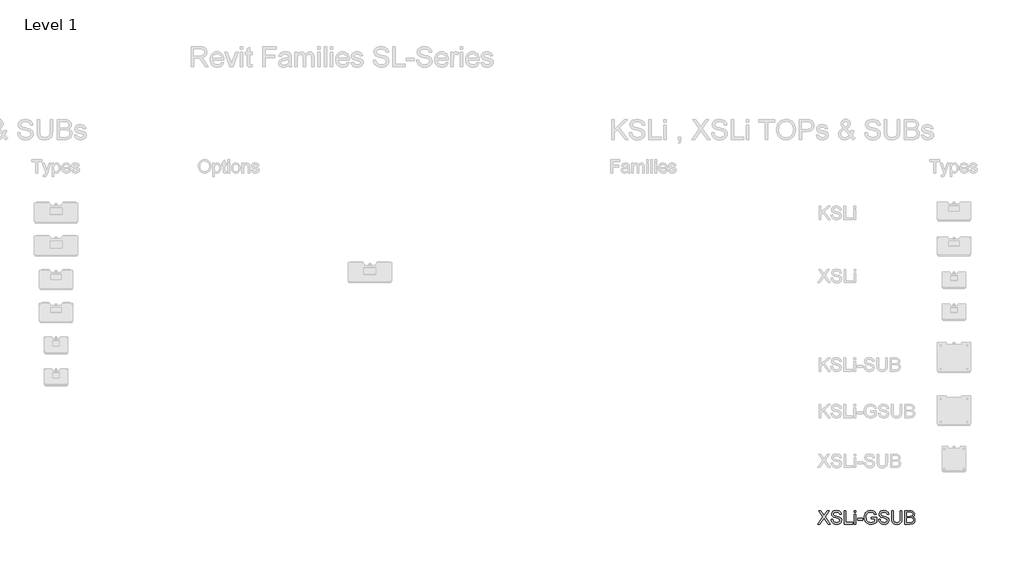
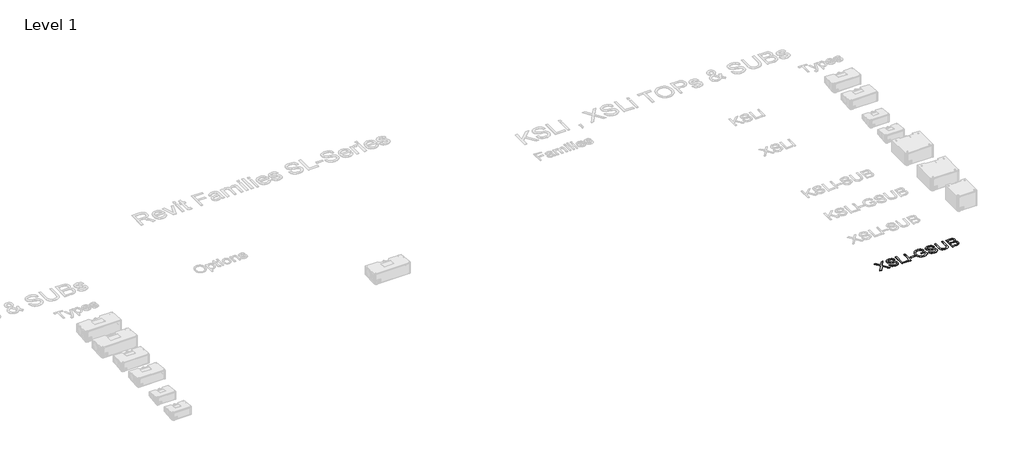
# One storey, part 49 of 52: 2 proxies.
"""IFC4 building model written with IfcOpenShell, lengths in millimetres."""

from ifc_helpers import new_model, si_unit, origin, origin_with_axes, place, context, project, spatial, polyline, outline, extrude, element, save

model = new_model("IFC4")

# Units and contexts
model_context = context("Model", 3, world=origin())
ifc_project = project(units=[si_unit("LENGTHUNIT", "METRE", prefix="MILLI")], contexts=[model_context])

# Site, building, storey
site = spatial("IfcSite", under=ifc_project)
building = spatial("IfcBuilding", under=site)
storey = spatial("IfcBuildingStorey", under=building, Name="Level 1", Elevation=0.0)

# Proxies
placement = place(None, origin())
element("IfcBuildingElementProxy", 1, Name="400mm Arial", ObjectType="400mm Arial", at=placement, inside=storey, context=model_context, shape_type="SweptSolid", body=[
    extrude(outline(polyline([(12164.5195082, 6781.029306), (12319.4223537, 6999.9926695), (12189.6335858, 7182.8545466), (12249.8681311, 7182.8545466), (12322.9540208, 7079.9456898), (12347.577589, 7039.8220268), (12376.4195374, 7080.6324028), (12448.7206122, 7182.8545466), (12509.8380744, 7182.8545466), (12380.0493065, 6999.4040583), (12534.9521519, 6781.029306), (12474.7176066, 6781.029306), (12371.5144442, 6926.6124742), (12350.0301357, 6956.8278487), (12326.3875861, 6923.6694182), (12225.6369704, 6781.029306), (12164.5195082, 6781.029306)])), origin_with_axes(), (0.0, 0.0, 1.0), 5.0),
    extrude(outline(polyline([(12566.3447488, 6919.1567324), (12616.5729039, 6919.1567324), (12622.3363885, 6891.2835399), (12632.7597117, 6868.8795264), (12649.0200959, 6851.0985633), (12672.2947634, 6837.094522), (12700.7443044, 6828.0078368), (12732.5293088, 6824.9789417), (12760.5128659, 6827.2720728), (12785.0138068, 6834.1514661), (12804.8671718, 6845.0407731), (12818.9080012, 6859.3636455), (12827.2589225, 6875.8079707), (12830.042563, 6893.0616362), (12827.9578983, 6909.8738434), (12821.7039044, 6924.4051822), (12808.9997128, 6936.8028055), (12787.5644553, 6947.2138659), (12714.4295146, 6966.3927806), (12666.4209142, 6979.0847094), (12635.7027676, 6991.1635016), (12610.6990547, 7008.0615479), (12592.9794053, 7028.5403123), (12582.421192, 7052.1583364), (12578.9017876, 7078.4741618), (12583.2550579, 7107.8924587), (12596.3148687, 7135.3241928), (12617.7378635, 7158.5743349), (12647.1806859, 7175.4478557), (12682.5218829, 7185.7117634), (12721.6400017, 7189.133066), (12764.0200076, 7185.5523479), (12801.1025127, 7174.8101936), (12831.5631419, 7157.1273324), (12854.07752, 7132.7244934), (12868.3268159, 7103.1222555), (12873.9921987, 7069.8411976), (12823.7640436, 7069.8411976), (12814.5424682, 7099.8113175), (12806.1792842, 7111.6693805), (12795.3145026, 7121.4427788), (12765.2708063, 7134.5393779), (12723.602039, 7138.9049109), (12680.9522531, 7134.5884288), (12664.6489493, 7129.1928262), (12651.6933717, 7121.6389826), (12634.7707999, 7102.5826952), (12629.1299427, 7079.9456898), (12633.1275937, 7060.6441478), (12645.1205467, 7045.1195276), (12673.4719858, 7031.2381136), (12727.1337062, 7017.0623941), (12782.5122092, 7003.5979131), (12816.0139962, 6991.8502147), (12844.6474782, 6973.6277932), (12864.6234705, 6951.1379405), (12876.3589062, 6924.6259114), (12880.270718, 6894.3369605), (12875.770295, 6863.3735592), (12862.2690257, 6834.2495679), (12840.3187334, 6809.1845413), (12810.4712408, 6790.3980341), (12774.5782208, 6778.6625985), (12734.4913461, 6774.7507866), (12685.2809979, 6778.9691668), (12644.7771902, 6791.6243074), (12612.5139392, 6812.7652594), (12588.0252611, 6842.4410737), (12572.3044371, 6878.5916111), (12566.3447488, 6919.1567324)])), origin_with_axes(), (0.0, 0.0, 1.0), 5.0),
    extrude(outline(polyline([(12955.6129507, 6781.029306), (12955.6129507, 7182.8545466), (13005.8411057, 7182.8545466), (13005.8411057, 6831.257461), (13206.753726, 6831.257461), (13206.753726, 6781.029306), (12955.6129507, 6781.029306)])), origin_with_axes(), (0.0, 0.0, 1.0), 5.0),
    extrude(outline(polyline([(13256.9818811, 6781.029306), (13256.9818811, 7076.119717), (13307.2100362, 7076.119717), (13307.2100362, 6781.029306), (13256.9818811, 6781.029306)])), origin_with_axes(), (0.0, 0.0, 1.0), 5.0),
    extrude(outline(polyline([(13256.9818811, 7132.6263915), (13256.9818811, 7182.8545466), (13307.2100362, 7182.8545466), (13307.2100362, 7132.6263915), (13256.9818811, 7132.6263915)])), origin_with_axes(), (0.0, 0.0, 1.0), 5.0),
    extrude(outline(polyline([(13357.4381913, 6900.3211743), (13357.4381913, 6950.5493293), (13514.4011759, 6950.5493293), (13514.4011759, 6900.3211743), (13357.4381913, 6900.3211743)])), origin_with_axes(), (0.0, 0.0, 1.0), 5.0),
    extrude(outline(polyline([(13765.5419512, 6937.9922906), (13765.5419512, 6988.2204457), (13928.7834552, 6988.2204457), (13928.7834552, 6838.0264898), (13889.1135134, 6810.4353401), (13848.1927728, 6790.6432888), (13806.1193353, 6778.7239121), (13762.9913027, 6774.7507866), (13734.1401573, 6776.3296135), (13706.6440438, 6781.0660942), (13680.5029624, 6788.9602286), (13655.7169129, 6800.0120169), (13633.0860389, 6814.0559121), (13613.4104835, 6830.9263672), (13596.6902468, 6850.6233824), (13582.9253288, 6873.1469576), (13572.1739775, 6897.7766571), (13564.4944409, 6923.7920456), (13559.8867189, 6951.1931228), (13558.3508115, 6979.979889), (13564.4699154, 7036.5724026), (13572.1187952, 7063.3879343), (13582.827227, 7089.2163161), (13596.4051383, 7112.923245), (13612.6624568, 7133.3744182), (13631.5991825, 7150.5698358), (13653.2153154, 7164.5094977), (13677.0418059, 7175.2823088), (13702.6096046, 7182.9771739), (13729.9187114, 7187.5940929), (13758.9691263, 7189.133066), (13800.343588, 7185.5646106), (13837.5487204, 7174.8592445), (13868.8800037, 7157.78952), (13892.6329178, 7135.1279891), (13910.2054145, 7105.7832686), (13922.9954452, 7068.6639753), (13876.6913647, 7055.6164272), (13866.3538806, 7082.0916681), (13853.7845791, 7102.0676604), (13837.156313, 7117.1262968), (13814.6419349, 7128.8494697), (13787.7988119, 7136.3910506), (13758.1843113, 7138.9049109), (13723.5175647, 7136.1948468), (13693.8785386, 7128.0646548), (13669.3775977, 7115.5321414), (13650.1251066, 7099.6151138), (13635.3485131, 7081.1351749), (13624.2752651, 7060.9139279), (13612.5030412, 7022.9975569), (13608.5789666, 6982.0400281), (13613.3001189, 6934.0069023), (13627.4635757, 6894.4841133), (13650.6401414, 6863.753704), (13682.4006203, 6842.0977172), (13719.5689646, 6829.2586355), (13758.9691263, 6824.9789417), (13793.7585003, 6828.2040405), (13827.689483, 6837.879337), (13857.1568308, 6851.2089279), (13878.5553002, 6865.3969102), (13878.5553002, 6937.9922906), (13765.5419512, 6937.9922906)])), origin_with_axes(), (0.0, 0.0, 1.0), 5.0),
    extrude(outline(polyline([(13991.5686491, 6919.1567324), (14041.7968041, 6919.1567324), (14047.5602887, 6891.2835399), (14057.9836119, 6868.8795264), (14074.2439961, 6851.0985633), (14097.5186637, 6837.094522), (14125.9682046, 6828.0078368), (14157.753209, 6824.9789417), (14185.7367661, 6827.2720728), (14210.237707, 6834.1514661), (14230.091072, 6845.0407731), (14244.1319015, 6859.3636455), (14252.4828228, 6875.8079707), (14255.2664632, 6893.0616362), (14253.1817986, 6909.8738434), (14246.9278047, 6924.4051822), (14234.2236131, 6936.8028055), (14212.7883555, 6947.2138659), (14139.6534149, 6966.3927806), (14091.6448145, 6979.0847094), (14060.9266679, 6991.1635016), (14035.922955, 7008.0615479), (14018.2033055, 7028.5403123), (14007.6450923, 7052.1583364), (14004.1256878, 7078.4741618), (14008.4789581, 7107.8924587), (14021.5387689, 7135.3241928), (14042.9617638, 7158.5743349), (14072.4045861, 7175.4478557), (14107.7457831, 7185.7117634), (14146.863902, 7189.133066), (14189.2439078, 7185.5523479), (14226.3264129, 7174.8101936), (14256.7870421, 7157.1273324), (14279.3014202, 7132.7244934), (14293.5507162, 7103.1222555), (14299.2160989, 7069.8411976), (14248.9879438, 7069.8411976), (14239.7663685, 7099.8113175), (14231.4031845, 7111.6693805), (14220.5384029, 7121.4427788), (14190.4947066, 7134.5393779), (14148.8259393, 7138.9049109), (14106.1761533, 7134.5884288), (14089.8728495, 7129.1928262), (14076.917272, 7121.6389826), (14059.9947002, 7102.5826952), (14054.3538429, 7079.9456898), (14058.3514939, 7060.6441478), (14070.344447, 7045.1195276), (14098.6958861, 7031.2381136), (14152.3576064, 7017.0623941), (14207.7361094, 7003.5979131), (14241.2378965, 6991.8502147), (14269.8713784, 6973.6277932), (14289.8473708, 6951.1379405), (14301.5828064, 6924.6259114), (14305.4946183, 6894.3369605), (14300.9941952, 6863.3735592), (14287.492926, 6834.2495679), (14265.5426336, 6809.1845413), (14235.6951411, 6790.3980341), (14199.8021211, 6778.6625985), (14159.7152463, 6774.7507866), (14110.5048981, 6778.9691668), (14070.0010904, 6791.6243074), (14037.7378395, 6812.7652594), (14013.2491613, 6842.4410737), (13997.5283374, 6878.5916111), (13991.5686491, 6919.1567324)])), origin_with_axes(), (0.0, 0.0, 1.0), 5.0),
    extrude(outline(polyline([(14644.534665, 7182.8545466), (14694.7628201, 7182.8545466), (14694.7628201, 6951.0398387), (14691.3537803, 6896.7527189), (14681.1266608, 6854.9490615), (14672.9412864, 6837.9958329), (14662.0213225, 6822.6980733), (14631.9776263, 6797.068961), (14612.8354998, 6787.3047597), (14590.9219956, 6780.3303302), (14538.7808542, 6774.7507866), (14487.7801469, 6779.6068289), (14447.0065591, 6794.1749559), (14430.4518693, 6804.9753582), (14416.447828, 6817.9523956), (14404.9944352, 6833.1060681), (14396.091691, 6850.4363757), (14384.6505609, 6894.0058667), (14380.8368509, 6951.0398387), (14380.8368509, 7182.8545466), (14431.065006, 7182.8545466), (14431.065006, 6952.8056722), (14433.5420781, 6907.6665514), (14440.9732944, 6876.2371663), (14454.4377754, 6854.4708149), (14475.0146417, 6838.3207954), (14501.8455018, 6828.3144051), (14534.0719646, 6824.9789417), (14561.7550848, 6826.6282793), (14585.158511, 6831.5762921), (14604.2822434, 6839.8229802), (14619.1262819, 6851.3683434), (14630.2424495, 6867.6042022), (14638.1825693, 6889.9223765), (14642.9466411, 6918.3228666), (14644.534665, 6952.8056722), (14644.534665, 7182.8545466)])), origin_with_axes(), (0.0, 0.0, 1.0), 5.0),
    extrude(outline(polyline([(14782.6620915, 6781.029306), (14782.6620915, 7182.8545466), (14935.9953071, 7182.8545466), (14978.1668465, 7179.8992279), (15011.092285, 7171.0332718), (15036.3289899, 7156.0359491), (15055.4343282, 7134.6865307), (15067.4640694, 7109.5724531), (15071.4739832, 7083.2811532), (15068.1017316, 7059.0867807), (15057.9849767, 7036.3394106), (15041.0501422, 7016.4369947), (15017.2236516, 7000.7774844), (15045.6854553, 6985.9150518), (15066.7160427, 6963.3025718), (15079.7022771, 6934.436098), (15084.0310219, 6900.8116836), (15081.0757033, 6872.7913383), (15072.2097472, 6846.8066067), (15058.9782581, 6824.7091615), (15042.9263404, 6808.3506755), (15023.2691791, 6796.5048752), (14999.2219593, 6787.9454875), (14969.9998662, 6782.7583513), (14934.8180847, 6781.029306), (14782.6620915, 6781.029306)]), holes=[polyline([(14832.8902466, 7019.6130426), (14924.6154907, 7019.6130426), (14978.1791092, 7023.9295247), (14996.9288282, 7031.3730037), (15010.405572, 7042.5198281), (15018.5357641, 7057.1983197), (15021.2458281, 7075.2368002), (15018.7197051, 7092.7479832), (15011.141336, 7108.0028233), (14998.8540773, 7119.9099372), (14982.2012857, 7127.3779417), (14956.6457498, 7131.314279), (14917.6502583, 7132.6263915), (14832.8902466, 7132.6263915), (14832.8902466, 7019.6130426)]), polyline([(14832.8902466, 6831.257461), (14935.8972052, 6831.257461), (14973.1759141, 6833.2194984), (15004.7156638, 6844.1578563), (15016.2916839, 6853.5878982), (15025.6113611, 6866.4760307), (15031.7549904, 6882.2459056), (15033.8028669, 6900.3211743), (15031.3993712, 6921.3149735), (15024.1888841, 6939.3657167), (15011.5950571, 6953.4801226), (14993.0415418, 6962.6649097), (14966.7625046, 6967.7048931), (14930.992112, 6969.3848875), (14832.8902466, 6969.3848875), (14832.8902466, 6831.257461)])]), origin_with_axes(), (0.0, 0.0, 1.0), 5.0),
])
element("IfcBuildingElementProxy", 2, Name="600mm Arial", ObjectType="600mm Arial", at=placement, inside=storey, context=model_context, shape_type="SweptSolid", body=[
    extrude(outline(polyline([(-6675.7189768, 20541.6162982), (-6675.7189768, 21144.3541591), (-6415.9942882, 21144.3541591), (-6346.1886797, 21140.2890631), (-6295.4025702, 21128.0937749), (-6275.8036569, 21118.4000843), (-6258.2832769, 21105.5793968), (-6242.8414302, 21089.6317123), (-6229.4781167, 21070.5570309), (-6218.6945757, 21049.3808235), (-6210.9920464, 21027.1285613), (-6206.3705289, 21003.8002443), (-6204.830023, 20979.3958725), (-6207.3822044, 20948.4386026), (-6215.0387484, 20920.0197184), (-6227.7996551, 20894.1392201), (-6245.6649245, 20870.7971075), (-6268.8644828, 20850.7383417), (-6297.6282563, 20834.7078838), (-6331.956245, 20822.7057337), (-6371.8484488, 20814.7318914), (-6347.0164141, 20798.5082954), (-6329.0269846, 20782.5054286), (-6298.1616852, 20745.9011701), (-6267.9585734, 20704.9559041), (-6167.4532123, 20541.6162982), (-6255.0091272, 20541.6162982), (-6333.4415685, 20666.5490238), (-6390.0953958, 20749.2488963), (-6411.15664, 20773.3635611), (-6429.9002277, 20788.3179642), (-6465.731934, 20802.665362), (-6509.436315, 20805.3141124), (-6600.3767442, 20805.3141124), (-6600.3767442, 20541.6162982), (-6675.7189768, 20541.6162982)]), holes=[polyline([(-6600.3767442, 20880.656345), (-6431.7396376, 20880.656345), (-6383.307973, 20883.3234894), (-6345.7288272, 20891.3249228), (-6317.4387017, 20905.194074), (-6296.8740982, 20925.464372), (-6284.3477163, 20949.983707), (-6280.1722556, 20976.5999693), (-6282.1634169, 20995.8677888), (-6288.1369008, 21013.3513806), (-6298.0927073, 21029.0507448), (-6312.0308364, 21042.9658812), (-6330.2731848, 21054.361026), (-6353.1416494, 21062.5004152), (-6380.63623, 21067.3840487), (-6412.7569267, 21069.0119265), (-6600.3767442, 21069.0119265), (-6600.3767442, 20880.656345)])]), origin_with_axes(), (0.0, 0.0, 1.0), 5.0),
    extrude(outline(polyline([(-5772.4951023, 20673.4652053), (-5698.6243976, 20664.0474262), (-5709.9505646, 20634.4605167), (-5725.24066, 20608.3868803), (-5744.4946839, 20585.826517), (-5767.7126363, 20566.7794267), (-5794.655394, 20551.6502796), (-5825.0838335, 20540.843746), (-5858.9979549, 20534.3598259), (-5896.3977583, 20532.1985191), (-5943.1463628, 20535.9279229), (-5984.7998017, 20547.116134), (-6021.358075, 20565.7631527), (-6052.8211826, 20591.8689787), (-6078.1222668, 20624.7070453), (-6096.1944698, 20663.5507855), (-6107.0377916, 20708.4001992), (-6110.6522322, 20759.2552866), (-6107.0010034, 20811.8348207), (-6096.047317, 20858.1787551), (-6077.791173, 20898.2870896), (-6052.2325714, 20932.1598243), (-6020.8522372, 20959.0703922), (-5985.1308955, 20978.2922265), (-5945.0685462, 20989.825327), (-5900.6651894, 20993.6696939), (-5857.6919738, 20989.8345241), (-5818.8298396, 20978.3290147), (-5784.0787866, 20959.1531657), (-5753.4388149, 20932.3069771), (-5728.4274378, 20898.5078188), (-5710.5621684, 20858.4730607), (-5699.8430068, 20812.2027027), (-5696.2699529, 20759.6967449), (-5696.7114113, 20739.3896588), (-6035.3099996, 20739.3896588), (-6030.9459995, 20709.3245028), (-6022.2685829, 20682.993349), (-6009.27775, 20660.3961974), (-5991.9735006, 20641.5330481), (-5971.312328, 20626.6614184), (-5948.2507255, 20616.0388258), (-5922.7886929, 20609.6652703), (-5894.9262303, 20607.5407517), (-5854.8270928, 20611.4770891), (-5821.0555256, 20623.2861011), (-5793.6115288, 20643.7035519), (-5772.4951023, 20673.4652053)]), holes=[polyline([(-6035.3099996, 20814.7318914), (-5771.6121855, 20814.7318914), (-5781.8025168, 20854.5367233), (-5790.5673053, 20870.1901022), (-5801.7785091, 20883.0107897), (-5822.3247185, 20898.4618335), (-5845.7036193, 20909.4982934), (-5871.9152115, 20916.1201693), (-5900.959495, 20918.3274613), (-5927.4515972, 20916.5662262), (-5951.7456044, 20911.2825211), (-5973.8415168, 20902.4763458), (-5993.7393342, 20890.1477004), (-6010.4365782, 20874.8668021), (-6022.9307705, 20857.2038678), (-6031.221911, 20837.1588976), (-6035.3099996, 20814.7318914)])]), origin_with_axes(), (0.0, 0.0, 1.0), 5.0),
    extrude(outline(polyline([(-5512.3289553, 20541.6162982), (-5668.0166157, 20984.2519148), (-5588.2597991, 20984.2519148), (-5493.9348555, 20719.0825727), (-5465.5343655, 20629.9079771), (-5437.7224867, 20714.0793775), (-5342.8089319, 20984.2519148), (-5263.0521154, 20984.2519148), (-5416.8267893, 20541.6162982), (-5512.3289553, 20541.6162982)])), origin_with_axes(), (0.0, 0.0, 1.0), 5.0),
    extrude(outline(polyline([(-5197.1276618, 21069.0119265), (-5197.1276618, 21144.3541591), (-5121.7854292, 21144.3541591), (-5121.7854292, 21069.0119265), (-5197.1276618, 21069.0119265)])), origin_with_axes(), (0.0, 0.0, 1.0), 5.0),
    extrude(outline(polyline([(-5197.1276618, 20541.6162982), (-5197.1276618, 20984.2519148), (-5121.7854292, 20984.2519148), (-5121.7854292, 20541.6162982), (-5197.1276618, 20541.6162982)])), origin_with_axes(), (0.0, 0.0, 1.0), 5.0),
    extrude(outline(polyline([(-4848.669836, 20604.450543), (-4839.2520569, 20539.4090062), (-4895.6115786, 20532.1985191), (-4931.7743787, 20535.3255161), (-4958.7401289, 20544.706507), (-4977.7964163, 20559.1642694), (-4990.2308277, 20577.5215809), (-4997.0734328, 20609.0490679), (-4999.3543012, 20663.0173566), (-4999.3543012, 20908.9096822), (-5055.8609757, 20908.9096822), (-5055.8609757, 20984.2519148), (-4999.3543012, 20984.2519148), (-4999.3543012, 21091.8206102), (-4924.0120686, 21136.1136024), (-4924.0120686, 20984.2519148), (-4848.669836, 20984.2519148), (-4848.669836, 20908.9096822), (-4924.0120686, 20908.9096822), (-4924.0120686, 20665.2246486), (-4920.0389431, 20626.3763099), (-4907.1630732, 20612.6175233), (-4896.2921603, 20608.8099446), (-4881.48491, 20607.5407517), (-4848.669836, 20604.450543)])), origin_with_axes(), (0.0, 0.0, 1.0), 5.0),
    extrude(outline(polyline([(-4528.4653474, 20541.6162982), (-4528.4653474, 21144.3541591), (-4123.5008471, 21144.3541591), (-4123.5008471, 21069.0119265), (-4453.1231148, 21069.0119265), (-4453.1231148, 20890.074124), (-4170.5897425, 20890.074124), (-4170.5897425, 20814.7318914), (-4453.1231148, 20814.7318914), (-4453.1231148, 20541.6162982), (-4528.4653474, 20541.6162982)])), origin_with_axes(), (0.0, 0.0, 1.0), 5.0),
    extrude(outline(polyline([(-3746.789684, 20598.1229727), (-3782.7869373, 20567.2576733), (-3819.8510483, 20547.0609517), (-3858.8281457, 20535.9141273), (-3900.564358, 20532.1985191), (-3934.1105975, 20534.4334023), (-3963.5273615, 20541.1380516), (-3988.8146501, 20552.3124672), (-4009.9724634, 20567.9566491), (-4026.6789045, 20587.0773158), (-4038.6120767, 20608.6811859), (-4045.77198, 20632.7682596), (-4048.1586145, 20659.3385367), (-4044.5533709, 20690.5717181), (-4033.7376403, 20718.9354199), (-4017.0541918, 20743.2156316), (-3995.8457948, 20762.1983425), (-3970.9217896, 20776.5457403), (-3943.0915167, 20786.9200126), (-3877.9028271, 20798.250778), (-3800.8683373, 20810.1701547), (-3747.2311424, 20824.1496705), (-3746.789684, 20840.9250895), (-3751.9768202, 20874.5495038), (-3758.4607403, 20887.0023094), (-3767.5382286, 20896.5488472), (-3783.2283957, 20906.0769908), (-3802.3398653, 20912.8828077), (-3850.8267123, 20918.3274613), (-3895.7083157, 20914.7038236), (-3927.0518617, 20903.8329107), (-3948.4258056, 20883.7281596), (-3963.3986028, 20852.4030077), (-4038.7408354, 20861.8207868), (-4025.6626305, 20903.0235703), (-4006.1464906, 20935.3971858), (-3978.3714, 20960.1556441), (-3940.5163427, 20978.5129557), (-3894.2183936, 20989.8805093), (-3841.1146276, 20993.6696939), (-3790.1813654, 20990.3219677), (-3749.8063164, 20980.2787893), (-3719.3640813, 20965.1772334), (-3698.2292607, 20946.6543749), (-3684.2129567, 20923.7537207), (-3675.1262714, 20895.5187776), (-3671.4474514, 20829.594324), (-3671.4474514, 20735.8579917), (-3667.6214787, 20604.9655778), (-3661.956096, 20572.6103563), (-3652.6118933, 20541.6162982), (-3727.9541259, 20541.6162982), (-3740.0206553, 20567.8094963), (-3746.789684, 20598.1229727)]), holes=[polyline([(-3746.789684, 20748.8074379), (-3797.4102466, 20736.2626619), (-3868.3378952, 20725.7044486), (-3933.1587028, 20713.4907664), (-3950.0260923, 20705.1398451), (-3962.515686, 20693.6251386), (-3970.2412079, 20679.8295638), (-3972.8163819, 20664.6360374), (-3967.2061814, 20642.2320239), (-3950.3755802, 20623.8747123), (-3922.69246, 20611.6242419), (-3884.524703, 20607.5407517), (-3844.0576836, 20612.0473062), (-3808.2995536, 20625.5669695), (-3779.3104524, 20645.4877795), (-3759.1505191, 20669.1977741), (-3750.2109866, 20693.6251386), (-3747.2311424, 20727.4702822), (-3746.789684, 20748.8074379)])]), origin_with_axes(), (0.0, 0.0, 1.0), 5.0),
    extrude(outline(polyline([(-3567.8518816, 20541.6162982), (-3567.8518816, 20984.2519148), (-3492.509649, 20984.2519148), (-3492.509649, 20911.4112798), (-3469.8481181, 20944.8701472), (-3440.7118641, 20971.0817394), (-3406.0941683, 20988.0227053), (-3366.9883122, 20993.6696939), (-3325.086553, 20987.9123407), (-3307.2534733, 20980.7156491), (-3291.4989268, 20970.640281), (-3266.4093747, 20942.993949), (-3250.0018378, 20906.113779), (-3222.5394468, 20944.4194918), (-3191.2142949, 20971.7807152), (-3156.0263821, 20988.1974492), (-3116.9757083, 20993.6696939), (-3086.8139832, 20991.393424), (-3060.3402751, 20984.5646145), (-3037.5545841, 20973.1832653), (-3018.45691, 20957.2493764), (-3003.3599526, 20936.5790068), (-2992.5764116, 20910.9882155), (-2986.106287, 20880.4770025), (-2983.9495788, 20845.0453678), (-2983.9495788, 20541.6162982), (-3059.2918115, 20541.6162982), (-3059.2918115, 20812.6717523), (-3061.0392509, 20850.2508981), (-3066.2815694, 20875.5795734), (-3076.1040186, 20892.9252095), (-3091.5918506, 20906.5552374), (-3111.5126607, 20915.3844053), (-3134.6340441, 20918.3274613), (-3155.9849954, 20916.442066), (-3175.4505514, 20910.7858804), (-3193.0307123, 20901.3589042), (-3208.7254779, 20888.1611377), (-3221.6335374, 20870.8063045), (-3230.8535799, 20848.9081288), (-3236.3856054, 20822.4666104), (-3238.2296139, 20791.4817493), (-3238.2296139, 20541.6162982), (-3313.5718465, 20541.6162982), (-3313.5718465, 20821.0594617), (-3317.9312482, 20863.6601968), (-3323.3805002, 20880.3804335), (-3331.0094531, 20894.0472496), (-3341.1216094, 20904.6698422), (-3354.0204719, 20912.2574083), (-3369.7060405, 20916.809948), (-3388.1783151, 20918.3274613), (-3417.2042046, 20914.2807593), (-3443.9492256, 20902.1406535), (-3466.0221453, 20882.2014493), (-3481.0317307, 20854.7574525), (-3489.6401694, 20816.681666), (-3492.509649, 20764.8470929), (-3492.509649, 20541.6162982), (-3567.8518816, 20541.6162982)])), origin_with_axes(), (0.0, 0.0, 1.0), 5.0),
    extrude(outline(polyline([(-2870.9362299, 21069.0119265), (-2870.9362299, 21144.3541591), (-2795.5939973, 21144.3541591), (-2795.5939973, 21069.0119265), (-2870.9362299, 21069.0119265)])), origin_with_axes(), (0.0, 0.0, 1.0), 5.0),
    extrude(outline(polyline([(-2870.9362299, 20541.6162982), (-2870.9362299, 20984.2519148), (-2795.5939973, 20984.2519148), (-2795.5939973, 20541.6162982), (-2870.9362299, 20541.6162982)])), origin_with_axes(), (0.0, 0.0, 1.0), 5.0),
    extrude(outline(polyline([(-2682.5806484, 20541.6162982), (-2682.5806484, 21144.3541591), (-2607.2384158, 21144.3541591), (-2607.2384158, 20541.6162982), (-2682.5806484, 20541.6162982)])), origin_with_axes(), (0.0, 0.0, 1.0), 5.0),
    extrude(outline(polyline([(-2494.2250669, 21069.0119265), (-2494.2250669, 21144.3541591), (-2418.8828342, 21144.3541591), (-2418.8828342, 21069.0119265), (-2494.2250669, 21069.0119265)])), origin_with_axes(), (0.0, 0.0, 1.0), 5.0),
    extrude(outline(polyline([(-2494.2250669, 20541.6162982), (-2494.2250669, 20984.2519148), (-2418.8828342, 20984.2519148), (-2418.8828342, 20541.6162982), (-2494.2250669, 20541.6162982)])), origin_with_axes(), (0.0, 0.0, 1.0), 5.0),
    extrude(outline(polyline([(-1995.9656926, 20673.4652053), (-1922.094988, 20664.0474262), (-1933.4211549, 20634.4605167), (-1948.7112503, 20608.3868803), (-1967.9652742, 20585.826517), (-1991.1832267, 20566.7794267), (-2018.1259843, 20551.6502796), (-2048.5544238, 20540.843746), (-2082.4685452, 20534.3598259), (-2119.8683486, 20532.1985191), (-2166.6169531, 20535.9279229), (-2208.270392, 20547.116134), (-2244.8286653, 20565.7631527), (-2276.2917729, 20591.8689787), (-2301.5928571, 20624.7070453), (-2319.6650602, 20663.5507855), (-2330.508382, 20708.4001992), (-2334.1228226, 20759.2552866), (-2330.4715938, 20811.8348207), (-2319.5179074, 20858.1787551), (-2301.2617633, 20898.2870896), (-2275.7031617, 20932.1598243), (-2244.3228275, 20959.0703922), (-2208.6014858, 20978.2922265), (-2168.5391365, 20989.825327), (-2124.1357797, 20993.6696939), (-2081.1625642, 20989.8345241), (-2042.3004299, 20978.3290147), (-2007.5493769, 20959.1531657), (-1976.9094052, 20932.3069771), (-1951.8980281, 20898.5078188), (-1934.0327587, 20858.4730607), (-1923.3135971, 20812.2027027), (-1919.7405432, 20759.6967449), (-1920.1820016, 20739.3896588), (-2258.7805899, 20739.3896588), (-2254.4165898, 20709.3245028), (-2245.7391732, 20682.993349), (-2232.7483403, 20660.3961974), (-2215.4440909, 20641.5330481), (-2194.7829184, 20626.6614184), (-2171.7213158, 20616.0388258), (-2146.2592832, 20609.6652703), (-2118.3968206, 20607.5407517), (-2078.2976831, 20611.4770891), (-2044.526116, 20623.2861011), (-2017.0821191, 20643.7035519), (-1995.9656926, 20673.4652053)]), holes=[polyline([(-2258.7805899, 20814.7318914), (-1995.0827758, 20814.7318914), (-2005.2731071, 20854.5367233), (-2014.0378956, 20870.1901022), (-2025.2490994, 20883.0107897), (-2045.7953088, 20898.4618335), (-2069.1742096, 20909.4982934), (-2095.3858018, 20916.1201693), (-2124.4300853, 20918.3274613), (-2150.9221875, 20916.5662262), (-2175.2161947, 20911.2825211), (-2197.3121071, 20902.4763458), (-2217.2099245, 20890.1477004), (-2233.9071685, 20874.8668021), (-2246.4013608, 20857.2038678), (-2254.6925013, 20837.1588976), (-2258.7805899, 20814.7318914)])]), origin_with_axes(), (0.0, 0.0, 1.0), 5.0),
    extrude(outline(polyline([(-1872.6516478, 20673.4652053), (-1797.3094152, 20682.8829844), (-1792.7568755, 20665.7028952), (-1785.4268268, 20650.6565216), (-1775.3192689, 20637.7438635), (-1762.4342021, 20626.9649211), (-1746.7348379, 20618.466847), (-1728.1843883, 20612.3967941), (-1682.5302327, 20607.5407517), (-1637.4279001, 20611.9921239), (-1619.898323, 20617.5563391), (-1605.7164721, 20625.3462403), (-1586.9544904, 20644.6968333), (-1582.2639949, 20655.530958), (-1580.7004964, 20667.137635), (-1582.273192, 20677.3095721), (-1586.9912786, 20686.3410751), (-1605.8636249, 20700.9827785), (-1634.0801739, 20710.5477104), (-1683.4131495, 20722.467087), (-1752.1702944, 20742.3511089), (-1796.8679568, 20759.328863), (-1825.5811465, 20777.8517214), (-1846.3848734, 20802.3710564), (-1859.0216199, 20831.3233694), (-1863.2338687, 20863.145162), (-1859.8493544, 20892.3365983), (-1849.6958113, 20919.2839545), (-1833.6929445, 20942.9203726), (-1812.760459, 20962.1789951), (-1791.9567322, 20974.3007068), (-1764.8622232, 20984.472644), (-1733.5370713, 20991.3704314), (-1700.0414157, 20993.6696939), (-1651.0027457, 20989.9724798), (-1608.3652225, 20978.8808377), (-1574.0786205, 20961.4800193), (-1550.0927144, 20938.8552766), (-1534.2002122, 20909.3327465), (-1524.193822, 20871.2385659), (-1599.5360546, 20861.8207868), (-1609.0458042, 20885.5307814), (-1627.8629682, 20903.3914523), (-1656.1714877, 20914.593459), (-1694.1553038, 20918.3274613), (-1737.4182264, 20914.7590059), (-1766.2601748, 20904.0536399), (-1782.4837708, 20888.6025961), (-1787.8916361, 20870.7971075), (-1785.647556, 20859.2088246), (-1778.9153154, 20848.8713406), (-1767.400609, 20839.6375025), (-1750.809131, 20832.2430744), (-1685.9147471, 20816.2034194), (-1575.3294193, 20780.7395951), (-1546.1195889, 20763.7802351), (-1523.9730928, 20740.5668812), (-1510.0119711, 20711.025957), (-1505.3582638, 20675.0838861), (-1510.8213115, 20637.9278045), (-1527.2104543, 20602.979015), (-1553.9002931, 20572.9782383), (-1590.2654283, 20550.6661953), (-1634.1905385, 20536.8154382), (-1683.5603023, 20532.1985191), (-1724.1100952, 20534.4242052), (-1759.5279343, 20541.1012634), (-1789.8138195, 20552.2296938), (-1814.967751, 20567.8094963), (-1835.5139604, 20587.7670945), (-1851.9766797, 20612.0289121), (-1864.3559088, 20640.594949), (-1872.6516478, 20673.4652053)])), origin_with_axes(), (0.0, 0.0, 1.0), 5.0),
    extrude(outline(polyline([(-1203.9893334, 20748.8074379), (-1128.6471008, 20748.8074379), (-1120.0018739, 20706.9976491), (-1104.3668891, 20673.3916289), (-1079.9763128, 20646.7201842), (-1045.0643115, 20625.7141223), (-1002.39, 20612.0840944), (-954.7124934, 20607.5407517), (-912.7371578, 20610.9804484), (-875.9857465, 20621.2995384), (-846.205699, 20637.6334989), (-825.1444547, 20659.1178075), (-812.6180728, 20683.7842952), (-808.4426122, 20709.6647936), (-811.5696091, 20734.8831044), (-820.9506, 20756.6801126), (-840.0068873, 20775.2765474), (-872.1597737, 20790.8931381), (-981.8621847, 20819.6615102), (-1053.8750852, 20838.6994034), (-1099.9523051, 20856.8175917), (-1137.4578745, 20882.1646611), (-1164.0373487, 20912.8828077), (-1179.8746686, 20948.3098439), (-1185.1537752, 20987.783582), (-1183.5212989, 21010.2197851), (-1178.6238698, 21031.9110273), (-1170.461488, 21052.8573084), (-1159.0341536, 21073.0586284), (-1144.4706251, 21091.6918515), (-1126.8996613, 21107.9338416), (-1106.3212622, 21121.7845987), (-1082.7354278, 21133.2441229), (-1029.7236323, 21148.6399843), (-971.046454, 21153.7719382), (-907.4764453, 21148.4008611), (-851.8526876, 21132.2876297), (-827.5172936, 21120.2854796), (-806.1617438, 21105.7633378), (-787.7860381, 21088.7212044), (-772.3901766, 21069.1590793), (-760.0937209, 21047.6471796), (-751.0162327, 21024.7557225), (-745.1577119, 21000.4847078), (-742.5181586, 20974.8341357), (-817.8603912, 20974.8341357), (-822.9003746, 20998.8752241), (-831.6927543, 21019.7893155), (-844.2375303, 21037.57641), (-860.5347027, 21052.2365075), (-880.8877741, 21063.6960317), (-905.6002471, 21071.8814061), (-934.6721218, 21076.7926307), (-968.1033981, 21078.4297056), (-1002.6015322, 21076.8110248), (-1032.078077, 21071.9549825), (-1056.5330327, 21063.8615786), (-1075.9663991, 21052.5308131), (-1090.7736494, 21038.9099822), (-1101.3502567, 21023.9463821), (-1107.6962211, 21007.6400126), (-1109.8115426, 20989.9908739), (-1108.3124235, 20974.8065446), (-1103.8150661, 20961.0385609), (-1096.3194704, 20948.6869229), (-1085.8256365, 20937.7516306), (-1069.3077349, 20927.3957525), (-1043.2984779, 20916.9295097), (-962.8058973, 20895.6659304), (-879.7381428, 20875.4692088), (-829.4854623, 20857.8476613), (-786.5352394, 20830.514029), (-769.9299658, 20814.4467829), (-756.5712508, 20796.7792501), (-746.3027447, 20777.6034011), (-738.9680974, 20757.0112064), (-733.1003796, 20711.57778), (-734.7880382, 20688.0103397), (-739.8510142, 20665.1326781), (-748.2893074, 20642.9447953), (-760.102918, 20621.4466912), (-775.0849123, 20601.4706988), (-793.0283566, 20583.8491513), (-813.9332509, 20568.5820485), (-837.7995954, 20555.6693904), (-863.9330126, 20545.4008842), (-891.6391254, 20538.066237), (-951.7694375, 20532.1985191), (-990.309675, 20533.7804117), (-1025.5849598, 20538.5260894), (-1057.5952919, 20546.4355523), (-1086.3406713, 20557.5088004), (-1111.995842, 20571.7642277), (-1134.7355478, 20589.2202284), (-1154.5597888, 20609.8768024), (-1171.468565, 20633.7339498), (-1185.0893959, 20660.0191184), (-1195.0498009, 20687.9597559), (-1201.3497801, 20717.5558624), (-1203.9893334, 20748.8074379)])), origin_with_axes(), (0.0, 0.0, 1.0), 5.0),
    extrude(outline(polyline([(-620.0870306, 20541.6162982), (-620.0870306, 21144.3541591), (-544.744798, 21144.3541591), (-544.744798, 20616.9585308), (-243.3758676, 20616.9585308), (-243.3758676, 20541.6162982), (-620.0870306, 20541.6162982)])), origin_with_axes(), (0.0, 0.0, 1.0), 5.0),
    extrude(outline(polyline([(-205.7047513, 20720.5541007), (-205.7047513, 20795.8963333), (29.7397256, 20795.8963333), (29.7397256, 20720.5541007), (-205.7047513, 20720.5541007)])), origin_with_axes(), (0.0, 0.0, 1.0), 5.0),
    extrude(outline(polyline([(95.6641792, 20748.8074379), (171.0064118, 20748.8074379), (179.6516387, 20706.9976491), (195.2866235, 20673.3916289), (219.6771998, 20646.7201842), (254.5892011, 20625.7141223), (297.2635125, 20612.0840944), (344.9410191, 20607.5407517), (386.9163548, 20610.9804484), (423.6677661, 20621.2995384), (453.4478136, 20637.6334989), (474.5090578, 20659.1178075), (487.0354398, 20683.7842952), (491.2109004, 20709.6647936), (488.0839034, 20734.8831044), (478.7029126, 20756.6801126), (459.6466252, 20775.2765474), (427.4937388, 20790.8931381), (317.7913279, 20819.6615102), (245.7784273, 20838.6994034), (199.7012074, 20856.8175917), (162.195638, 20882.1646611), (135.6161639, 20912.8828077), (119.778844, 20948.3098439), (114.4997373, 20987.783582), (116.1322137, 21010.2197851), (121.0296428, 21031.9110273), (129.1920245, 21052.8573084), (140.619359, 21073.0586284), (155.1828875, 21091.6918515), (172.7538513, 21107.9338416), (193.3322504, 21121.7845987), (216.9180848, 21133.2441229), (269.9298803, 21148.6399843), (328.6070585, 21153.7719382), (392.1770673, 21148.4008611), (447.800825, 21132.2876297), (472.1362189, 21120.2854796), (493.4917688, 21105.7633378), (511.8674744, 21088.7212044), (527.2633359, 21069.1590793), (539.5597916, 21047.6471796), (548.6372798, 21024.7557225), (554.4958006, 21000.4847078), (557.1353539, 20974.8341357), (481.7931213, 20974.8341357), (476.753138, 20998.8752241), (467.9607583, 21019.7893155), (455.4159823, 21037.57641), (439.1188099, 21052.2365075), (418.7657385, 21063.6960317), (394.0532655, 21071.8814061), (364.9813908, 21076.7926307), (331.5501145, 21078.4297056), (297.0519804, 21076.8110248), (267.5754355, 21071.9549825), (243.1204799, 21063.8615786), (223.6871135, 21052.5308131), (208.8798632, 21038.9099822), (198.3032558, 21023.9463821), (191.9572914, 21007.6400126), (189.8419699, 20989.9908739), (191.3410891, 20974.8065446), (195.8384465, 20961.0385609), (203.3340421, 20948.6869229), (213.827876, 20937.7516306), (230.3457776, 20927.3957525), (256.3550347, 20916.9295097), (336.8476152, 20895.6659304), (419.9153697, 20875.4692088), (470.1680503, 20857.8476613), (513.1182732, 20830.514029), (529.7235468, 20814.4467829), (543.0822617, 20796.7792501), (553.3507679, 20777.6034011), (560.6854152, 20757.0112064), (566.553133, 20711.57778), (564.8654744, 20688.0103397), (559.8024984, 20665.1326781), (551.3642051, 20642.9447953), (539.5505946, 20621.4466912), (524.5686003, 20601.4706988), (506.625156, 20583.8491513), (485.7202616, 20568.5820485), (461.8539172, 20555.6693904), (435.7204999, 20545.4008842), (408.0143872, 20538.066237), (347.8840751, 20532.1985191), (309.3438376, 20533.7804117), (274.0685527, 20538.5260894), (242.0582206, 20546.4355523), (213.3128412, 20557.5088004), (187.6576706, 20571.7642277), (164.9179648, 20589.2202284), (145.0937238, 20609.8768024), (128.1849476, 20633.7339498), (114.5641167, 20660.0191184), (104.6037117, 20687.9597559), (98.3037325, 20717.5558624), (95.6641792, 20748.8074379)])), origin_with_axes(), (0.0, 0.0, 1.0), 5.0),
    extrude(outline(polyline([(980.0524956, 20673.4652053), (1053.9232002, 20664.0474262), (1042.5970333, 20634.4605167), (1027.3069379, 20608.3868803), (1008.0529139, 20585.826517), (984.8349615, 20566.7794267), (957.8922039, 20551.6502796), (927.4637644, 20540.843746), (893.5496429, 20534.3598259), (856.1498396, 20532.1985191), (809.4012351, 20535.9279229), (767.7477962, 20547.116134), (731.1895229, 20565.7631527), (699.7264153, 20591.8689787), (674.425331, 20624.7070453), (656.353128, 20663.5507855), (645.5098062, 20708.4001992), (641.8953656, 20759.2552866), (645.5465944, 20811.8348207), (656.5002808, 20858.1787551), (674.7564248, 20898.2870896), (700.3150265, 20932.1598243), (731.6953606, 20959.0703922), (767.4167024, 20978.2922265), (807.4790517, 20989.825327), (851.8824085, 20993.6696939), (894.855624, 20989.8345241), (933.7177583, 20978.3290147), (968.4688113, 20959.1531657), (999.1087829, 20932.3069771), (1024.1201601, 20898.5078188), (1041.9854295, 20858.4730607), (1052.7045911, 20812.2027027), (1056.277645, 20759.6967449), (1055.8361866, 20739.3896588), (717.2375982, 20739.3896588), (721.6015984, 20709.3245028), (730.279015, 20682.993349), (743.2698479, 20660.3961974), (760.5740973, 20641.5330481), (781.2352698, 20626.6614184), (804.2968724, 20616.0388258), (829.758905, 20609.6652703), (857.6213676, 20607.5407517), (897.7205051, 20611.4770891), (931.4920722, 20623.2861011), (958.9360691, 20643.7035519), (980.0524956, 20673.4652053)]), holes=[polyline([(717.2375982, 20814.7318914), (980.9354124, 20814.7318914), (970.7450811, 20854.5367233), (961.9802926, 20870.1901022), (950.7690888, 20883.0107897), (930.2228793, 20898.4618335), (906.8439785, 20909.4982934), (880.6323864, 20916.1201693), (851.5881029, 20918.3274613), (825.0960007, 20916.5662262), (800.8019934, 20911.2825211), (778.7060811, 20902.4763458), (758.8082637, 20890.1477004), (742.1110196, 20874.8668021), (729.6168274, 20857.2038678), (721.3256869, 20837.1588976), (717.2375982, 20814.7318914)])]), origin_with_axes(), (0.0, 0.0, 1.0), 5.0),
    extrude(outline(polyline([(1131.6198776, 20541.6162982), (1131.6198776, 20984.2519148), (1197.5443311, 20984.2519148), (1197.5443311, 20918.7689197), (1221.8981192, 20956.7343416), (1244.3389209, 20979.1015669), (1266.853299, 20990.0276621), (1291.4278163, 20993.6696939), (1328.9517798, 20987.8571584), (1367.0643545, 20970.4195518), (1341.901226, 20902.8764175), (1315.4137224, 20914.4647003), (1288.9262187, 20918.3274613), (1266.4302347, 20914.6118531), (1246.3254837, 20903.4650287), (1230.0834936, 20885.7331165), (1219.1757925, 20862.2622452), (1210.0155308, 20820.176545), (1206.9621102, 20774.264872), (1206.9621102, 20541.6162982), (1131.6198776, 20541.6162982)])), origin_with_axes(), (0.0, 0.0, 1.0), 5.0),
    extrude(outline(polyline([(1414.1532499, 21069.0119265), (1414.1532499, 21144.3541591), (1489.4954825, 21144.3541591), (1489.4954825, 21069.0119265), (1414.1532499, 21069.0119265)])), origin_with_axes(), (0.0, 0.0, 1.0), 5.0),
    extrude(outline(polyline([(1414.1532499, 20541.6162982), (1414.1532499, 20984.2519148), (1489.4954825, 20984.2519148), (1489.4954825, 20541.6162982), (1414.1532499, 20541.6162982)])), origin_with_axes(), (0.0, 0.0, 1.0), 5.0),
    extrude(outline(polyline([(1912.4126242, 20673.4652053), (1986.2833288, 20664.0474262), (1974.9571619, 20634.4605167), (1959.6670664, 20608.3868803), (1940.4130425, 20585.826517), (1917.1950901, 20566.7794267), (1890.2523325, 20551.6502796), (1859.823893, 20540.843746), (1825.9097715, 20534.3598259), (1788.5099682, 20532.1985191), (1741.7613637, 20535.9279229), (1700.1079247, 20547.116134), (1663.5496515, 20565.7631527), (1632.0865438, 20591.8689787), (1606.7854596, 20624.7070453), (1588.7132566, 20663.5507855), (1577.8699348, 20708.4001992), (1574.2554942, 20759.2552866), (1577.906723, 20811.8348207), (1588.8604094, 20858.1787551), (1607.1165534, 20898.2870896), (1632.675155, 20932.1598243), (1664.0554892, 20959.0703922), (1699.776831, 20978.2922265), (1739.8391802, 20989.825327), (1784.242537, 20993.6696939), (1827.2157526, 20989.8345241), (1866.0778869, 20978.3290147), (1900.8289398, 20959.1531657), (1931.4689115, 20932.3069771), (1956.4802887, 20898.5078188), (1974.3455581, 20858.4730607), (1985.0647197, 20812.2027027), (1988.6377736, 20759.6967449), (1988.1963152, 20739.3896588), (1649.5977268, 20739.3896588), (1653.961727, 20709.3245028), (1662.6391435, 20682.993349), (1675.6299765, 20660.3961974), (1692.9342258, 20641.5330481), (1713.5953984, 20626.6614184), (1736.657001, 20616.0388258), (1762.1190336, 20609.6652703), (1789.9814962, 20607.5407517), (1830.0806336, 20611.4770891), (1863.8522008, 20623.2861011), (1891.2961976, 20643.7035519), (1912.4126242, 20673.4652053)]), holes=[polyline([(1649.5977268, 20814.7318914), (1913.295541, 20814.7318914), (1903.1052097, 20854.5367233), (1894.3404212, 20870.1901022), (1883.1292173, 20883.0107897), (1862.5830079, 20898.4618335), (1839.2041071, 20909.4982934), (1812.992515, 20916.1201693), (1783.9482314, 20918.3274613), (1757.4561293, 20916.5662262), (1733.162122, 20911.2825211), (1711.0662097, 20902.4763458), (1691.1683923, 20890.1477004), (1674.4711482, 20874.8668021), (1661.9769559, 20857.2038678), (1653.6858155, 20837.1588976), (1649.5977268, 20814.7318914)])]), origin_with_axes(), (0.0, 0.0, 1.0), 5.0),
    extrude(outline(polyline([(2035.7266689, 20673.4652053), (2111.0689016, 20682.8829844), (2115.6214412, 20665.7028952), (2122.95149, 20650.6565216), (2133.0590478, 20637.7438635), (2145.9441147, 20626.9649211), (2161.6434788, 20618.466847), (2180.1939285, 20612.3967941), (2225.8480841, 20607.5407517), (2270.9504167, 20611.9921239), (2288.4799937, 20617.5563391), (2302.6618446, 20625.3462403), (2321.4238264, 20644.6968333), (2326.1143218, 20655.530958), (2327.6778203, 20667.137635), (2326.1051248, 20677.3095721), (2321.3870382, 20686.3410751), (2302.5146918, 20700.9827785), (2274.2981428, 20710.5477104), (2224.9651673, 20722.467087), (2156.2080224, 20742.3511089), (2111.51036, 20759.328863), (2082.7971702, 20777.8517214), (2061.9934434, 20802.3710564), (2049.3566969, 20831.3233694), (2045.144448, 20863.145162), (2048.5289624, 20892.3365983), (2058.6825054, 20919.2839545), (2074.6853722, 20942.9203726), (2095.6178578, 20962.1789951), (2116.4215846, 20974.3007068), (2143.5160935, 20984.472644), (2174.8412454, 20991.3704314), (2208.3369011, 20993.6696939), (2257.375571, 20989.9724798), (2300.0130943, 20978.8808377), (2334.2996962, 20961.4800193), (2358.2856023, 20938.8552766), (2374.1781045, 20909.3327465), (2384.1844948, 20871.2385659), (2308.8422622, 20861.8207868), (2299.3325126, 20885.5307814), (2280.5153485, 20903.3914523), (2252.206829, 20914.593459), (2214.223013, 20918.3274613), (2170.9600904, 20914.7590059), (2142.118142, 20904.0536399), (2125.894546, 20888.6025961), (2120.4866806, 20870.7971075), (2122.7307608, 20859.2088246), (2129.4630013, 20848.8713406), (2140.9777078, 20839.6375025), (2157.5691857, 20832.2430744), (2222.4635697, 20816.2034194), (2333.0488974, 20780.7395951), (2362.2587279, 20763.7802351), (2384.405224, 20740.5668812), (2398.3663457, 20711.025957), (2403.0200529, 20675.0838861), (2397.5570053, 20637.9278045), (2381.1678624, 20602.979015), (2354.4780237, 20572.9782383), (2318.1128884, 20550.6661953), (2274.1877782, 20536.8154382), (2224.8180145, 20532.1985191), (2184.2682215, 20534.4242052), (2148.8503825, 20541.1012634), (2118.5644972, 20552.2296938), (2093.4105658, 20567.8094963), (2072.8643564, 20587.7670945), (2056.4016371, 20612.0289121), (2044.0224079, 20640.594949), (2035.7266689, 20673.4652053)])), origin_with_axes(), (0.0, 0.0, 1.0), 5.0),
])

save(model, "model.ifc")
